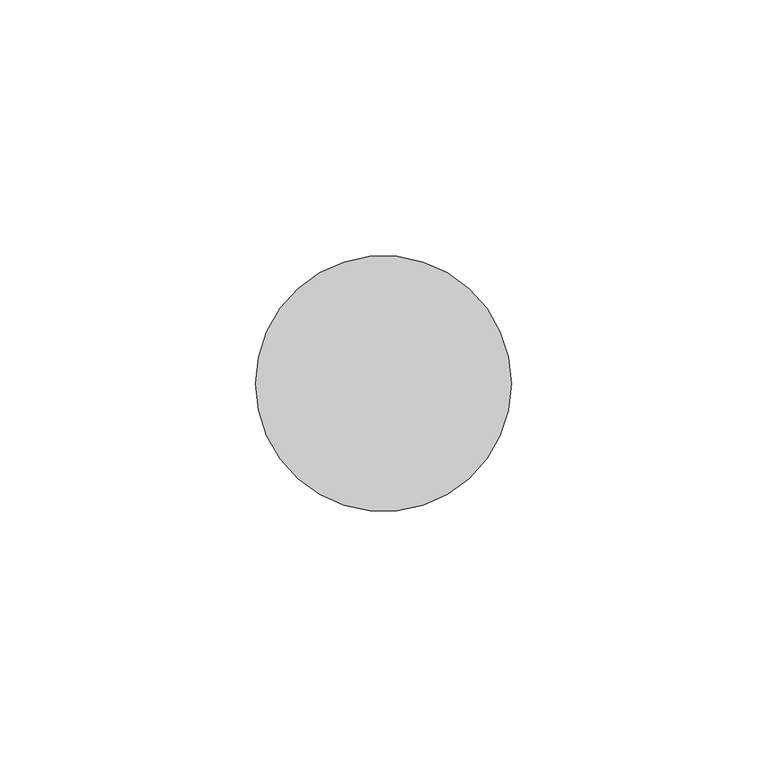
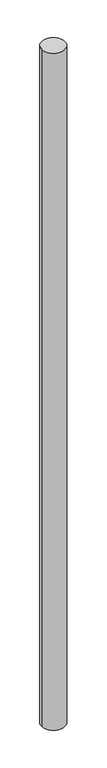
"""IFC4 building model written with IfcOpenShell, lengths in millimetres: member geometry, 圆形竖梃 : 25mm 半径."""

from ifc_helpers import new_model, si_unit, point, frame, frame_2d, origin, place, context, project, spatial, circle_curve, trimmed, segment, composite_curve, outline, extrude, source, transform, mapped, element, save


def member_936fc316(model_context):
    return source(origin(), model_context, "Body", "SweptSolid", [
        extrude(outline(composite_curve([segment(trimmed(circle_curve(frame_2d((-25.0, 0.0)), 25.0), [point((0.0, 0.0))], [point((-50.0, 0.0))], False, "CARTESIAN"), True, "CONTINUOUS"), segment(trimmed(circle_curve(frame_2d((-25.0, 0.0)), 25.0), [point((-50.0, 0.0))], [point((0.0, 0.0))], False, "CARTESIAN"), True, "CONTINUOUS")], self_intersect=False)), frame((0.0, 0.0, -1535.0), z_axis=(0.0, 0.0, 1.0), x_axis=(1.0, 0.0, 0.0)), (0.0, 0.0, 1.0), 1535.0),
    ])


if __name__ == "__main__":
    model = new_model("IFC4")
    model_context = context("Model", 3, world=origin())
    ifc_project = project(units=[si_unit("LENGTHUNIT", "METRE", prefix="MILLI")], contexts=[model_context])
    site = spatial("IfcSite", under=ifc_project)
    building = spatial("IfcBuilding", under=site)
    placement = place(None, origin())
    member_shape = member_936fc316(model_context)
    element("IfcMember", 1, ObjectType="圆形竖梃 : 25mm 半径", at=placement, inside=building, context=model_context, shape_type="MappedRepresentation", body=[
        mapped(member_shape, transform((0.0, 0.0, 0.0), x_axis=(1.0, 0.0, 0.0), y_axis=(0.0, 1.0, 0.0), z_axis=(0.0, 0.0, 1.0))),
    ])
    save(model, "model.ifc")
